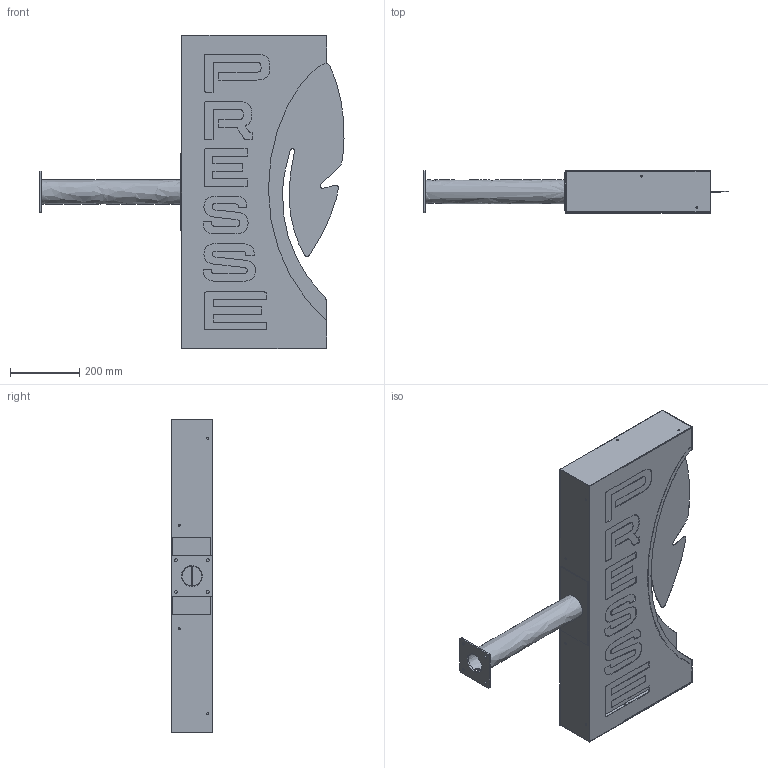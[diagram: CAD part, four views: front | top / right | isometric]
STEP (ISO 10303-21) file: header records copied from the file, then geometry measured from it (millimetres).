
FILE_DESCRIPTION(/* description */ (''),/* implementation_level */ '2;1');
FILE_NAME(/* name */ 'PLUME-POTENCEL',/* time_stamp */ '2025-03-11T18:44:06+01:00',/* author */ (''),/* organization */ (''),/* preprocessor_version */ 'ST-DEVELOPER v16.5',/* originating_system */ '',/* authorisation */ '');
FILE_SCHEMA (('AUTOMOTIVE_DESIGN'));
Length unit declared in the file: millimetre
Products named in the file (1): Document
Bounding box: 876.72 x 120.5 x 904 mm (x, y, z)
Volume: 3107336.7 mm3; surface area: 3257630.8 mm2
Topology: 12 solids, 12 shells, 499 faces, 1425 edges, 950 vertices
Faces by surface type: bspline 418, plane 81
Entity records: 28734 total; most frequent: CARTESIAN_POINT 19897, ORIENTED_EDGE 2794, EDGE_CURVE 1397, B_SPLINE_CURVE_WITH_KNOTS 1048, VERTEX_POINT 928, EDGE_LOOP 725, ADVANCED_FACE 493, FACE_OUTER_BOUND 493
